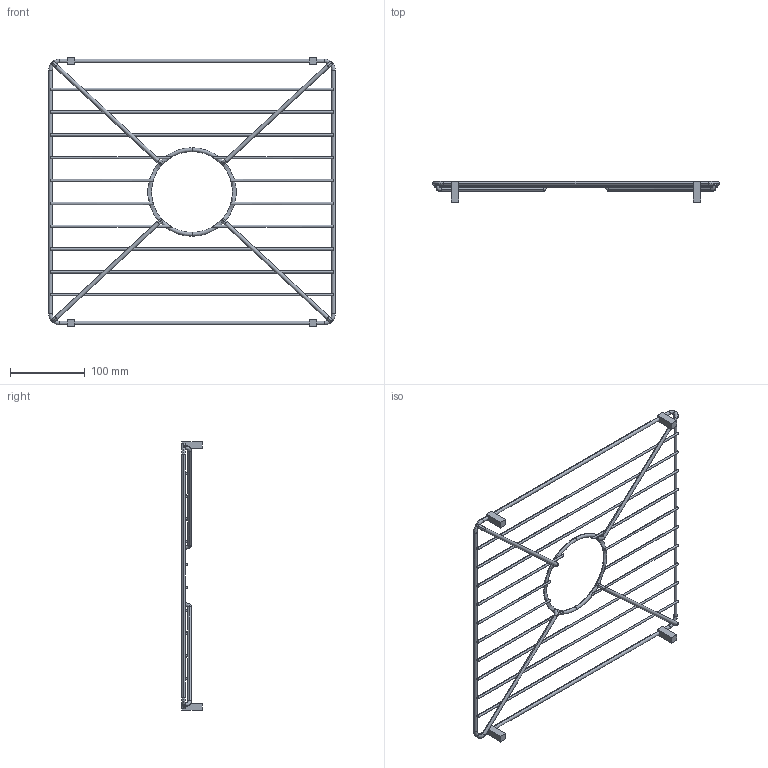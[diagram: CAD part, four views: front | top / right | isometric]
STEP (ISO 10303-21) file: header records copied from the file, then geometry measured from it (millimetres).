
FILE_DESCRIPTION (( 'STEP AP214' ), '1' );
FILE_NAME ('KGD33.STEP', '2020-10-28T06:32:35', ( '' ), ( '' ), 'SwSTEP 2.0', 'SolidWorks 2020', '' );
FILE_SCHEMA (( 'AUTOMOTIVE_DESIGN' ));
Length unit declared in the file: millimetre
Products named in the file (1): KGD33
Bounding box: 383 x 27.5 x 359 mm (x, y, z)
Volume: 84796 mm3; surface area: 78785.9 mm2
Topology: 5 solids, 5 shells, 176 faces, 516 edges, 348 vertices
Faces by surface type: cylinder 92, plane 48, torus 36
Entity records: 9766 total; most frequent: CARTESIAN_POINT 2961, ORIENTED_EDGE 1032, DIRECTION 970, EDGE_CURVE 516, AXIS2_PLACEMENT_3D 413, VERTEX_POINT 348, EDGE_LOOP 244, CIRCLE 236
